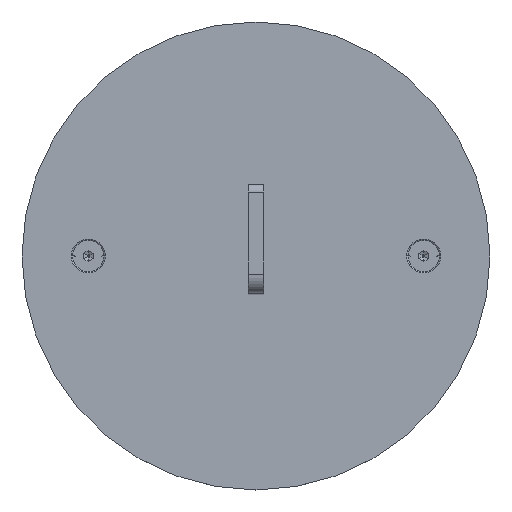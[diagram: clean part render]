
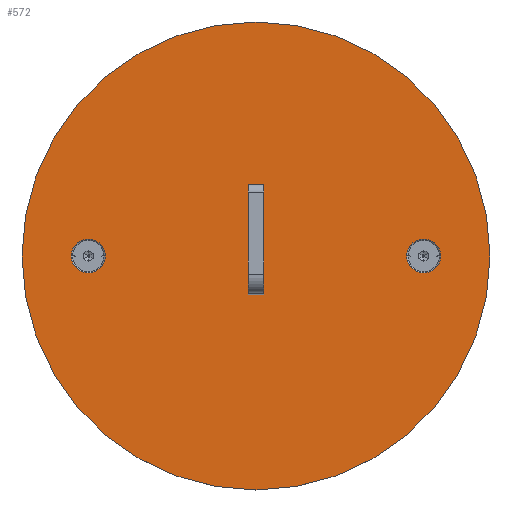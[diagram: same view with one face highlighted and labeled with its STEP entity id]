
A CAD part, top view. The second image highlights one B-rep face of the part: STEP entity #572.
In plain terms, the highlighted planar face has unit normal (0, 0, 1) as drawn and (0, 1, 0) by its records, which use the part's own axes.
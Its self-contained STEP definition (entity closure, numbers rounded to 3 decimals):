
#361=CARTESIAN_POINT('',(0.,1.5,0.));
#362=DIRECTION('',(0.,1.,0.));
#363=DIRECTION('',(1.,0.,0.));
#364=AXIS2_PLACEMENT_3D('',#361,#362,#363);
#366=CARTESIAN_POINT('',(0.,1.5,0.));
#367=DIRECTION('',(0.,1.,0.));
#368=DIRECTION('',(-1.,0.,0.));
#369=AXIS2_PLACEMENT_3D('',#366,#367,#368);
#371=DIRECTION('',(-1.,0.,0.));
#372=VECTOR('',#371,4.);
#373=CARTESIAN_POINT('',(2.,1.5,9.));
#374=LINE('',#373,#372);
#375=DIRECTION('',(0.,0.,1.));
#376=VECTOR('',#375,18.);
#377=CARTESIAN_POINT('',(2.,1.5,-9.));
#378=LINE('',#377,#376);
#379=DIRECTION('',(1.,0.,0.));
#380=VECTOR('',#379,4.);
#381=CARTESIAN_POINT('',(-2.,1.5,-9.));
#382=LINE('',#381,#380);
#383=DIRECTION('',(0.,0.,-1.));
#384=VECTOR('',#383,18.);
#385=CARTESIAN_POINT('',(-2.,1.5,9.));
#386=LINE('',#385,#384);
#387=CARTESIAN_POINT('',(-43.,1.5,0.));
#388=DIRECTION('',(0.,1.,0.));
#389=DIRECTION('',(-1.,0.,0.));
#390=AXIS2_PLACEMENT_3D('',#387,#388,#389);
#392=CARTESIAN_POINT('',(-43.,1.5,0.));
#393=DIRECTION('',(0.,1.,0.));
#394=DIRECTION('',(1.,0.,0.));
#395=AXIS2_PLACEMENT_3D('',#392,#393,#394);
#397=CARTESIAN_POINT('',(43.,1.5,0.));
#398=DIRECTION('',(0.,1.,0.));
#399=DIRECTION('',(-1.,0.,0.));
#400=AXIS2_PLACEMENT_3D('',#397,#398,#399);
#402=CARTESIAN_POINT('',(43.,1.5,0.));
#403=DIRECTION('',(0.,1.,0.));
#404=DIRECTION('',(1.,0.,0.));
#405=AXIS2_PLACEMENT_3D('',#402,#403,#404);
#443=CARTESIAN_POINT('',(60.,1.5,0.));
#444=CARTESIAN_POINT('',(-60.,1.5,0.));
#445=VERTEX_POINT('',#443);
#446=VERTEX_POINT('',#444);
#455=CARTESIAN_POINT('',(2.,1.5,9.));
#456=VERTEX_POINT('',#455);
#457=CARTESIAN_POINT('',(-2.,1.5,9.));
#458=VERTEX_POINT('',#457);
#459=CARTESIAN_POINT('',(-2.,1.5,-9.));
#460=VERTEX_POINT('',#459);
#461=CARTESIAN_POINT('',(2.,1.5,-9.));
#462=VERTEX_POINT('',#461);
#467=CARTESIAN_POINT('',(-47.35,1.5,0.));
#468=CARTESIAN_POINT('',(-38.65,1.5,0.));
#469=VERTEX_POINT('',#467);
#470=VERTEX_POINT('',#468);
#475=CARTESIAN_POINT('',(38.65,1.5,0.));
#476=CARTESIAN_POINT('',(47.35,1.5,0.));
#477=VERTEX_POINT('',#475);
#478=VERTEX_POINT('',#476);
#541=CARTESIAN_POINT('',(0.,1.5,0.));
#542=DIRECTION('',(0.,1.,0.));
#543=DIRECTION('',(1.,0.,0.));
#544=AXIS2_PLACEMENT_3D('',#541,#542,#543);
#545=PLANE('',#544);
#546=ORIENTED_EDGE('',*,*,#521,.F.);
#547=ORIENTED_EDGE('',*,*,#535,.F.);
#548=EDGE_LOOP('',(#546,#547));
#549=FACE_OUTER_BOUND('',#548,.F.);
#551=ORIENTED_EDGE('',*,*,#550,.F.);
#553=ORIENTED_EDGE('',*,*,#552,.F.);
#555=ORIENTED_EDGE('',*,*,#554,.F.);
#557=ORIENTED_EDGE('',*,*,#556,.F.);
#558=EDGE_LOOP('',(#551,#553,#555,#557));
#559=FACE_BOUND('',#558,.F.);
#561=ORIENTED_EDGE('',*,*,#560,.T.);
#563=ORIENTED_EDGE('',*,*,#562,.T.);
#564=EDGE_LOOP('',(#561,#563));
#565=FACE_BOUND('',#564,.F.);
#567=ORIENTED_EDGE('',*,*,#566,.T.);
#569=ORIENTED_EDGE('',*,*,#568,.T.);
#570=EDGE_LOOP('',(#567,#569));
#571=FACE_BOUND('',#570,.F.);
#572=ADVANCED_FACE('',(#549,#559,#565,#571),#545,.T.);
#365=CIRCLE('',#364,60.);
#370=CIRCLE('',#369,60.);
#391=CIRCLE('',#390,4.35);
#396=CIRCLE('',#395,4.35);
#401=CIRCLE('',#400,4.35);
#406=CIRCLE('',#405,4.35);
#521=EDGE_CURVE('',#445,#446,#365,.T.);
#535=EDGE_CURVE('',#446,#445,#370,.T.);
#550=EDGE_CURVE('',#456,#458,#374,.T.);
#552=EDGE_CURVE('',#462,#456,#378,.T.);
#554=EDGE_CURVE('',#460,#462,#382,.T.);
#556=EDGE_CURVE('',#458,#460,#386,.T.);
#560=EDGE_CURVE('',#469,#470,#391,.T.);
#562=EDGE_CURVE('',#470,#469,#396,.T.);
#566=EDGE_CURVE('',#477,#478,#401,.T.);
#568=EDGE_CURVE('',#478,#477,#406,.T.);
